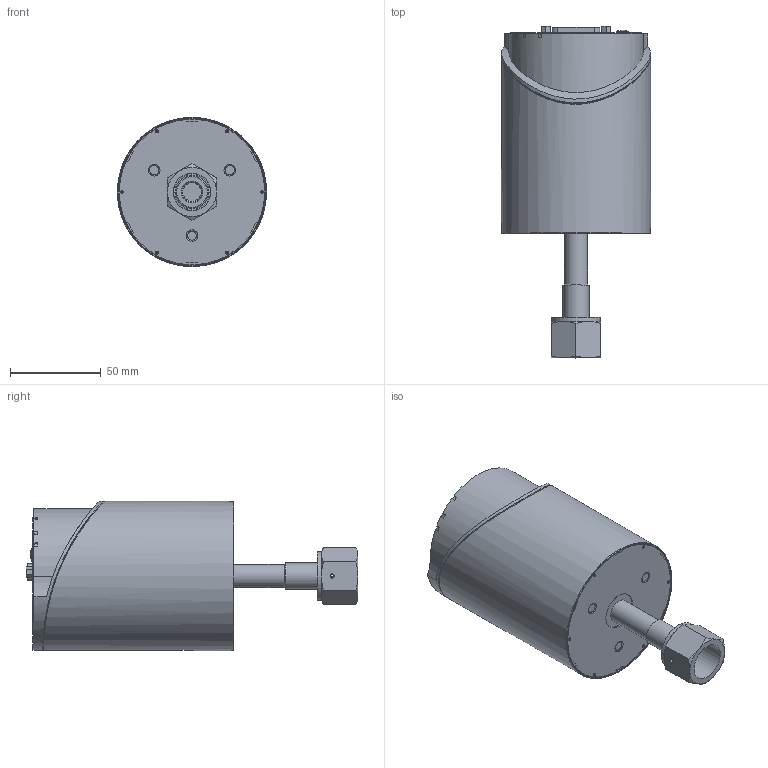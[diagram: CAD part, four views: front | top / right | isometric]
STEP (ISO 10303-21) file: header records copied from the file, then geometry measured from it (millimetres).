
FILE_DESCRIPTION(/* description */ (''),/* implementation_level */ '2;1');
FILE_NAME(/* name */ 'M:\Lehrlinge\15_Yanik Lutz\MCDG045D_16KF mit anderen Flansch\MCDG045D_16KF mit 8 VCR female long.stp',/* time_stamp */ '2022-03-18T15:25:13+01:00',/* author */ ('yani001'),/* organization */ (''),/* preprocessor_version */ 'ST-DEVELOPER v18.1',/* originating_system */ 'Autodesk Inventor 2021',/* authorisation */ '');
FILE_SCHEMA (('AUTOMOTIVE_DESIGN { 1 0 10303 214 3 1 1 }'));
Length unit declared in the file: millimetre
Products named in the file (1): Bauteil21
Bounding box: 82 x 182.57 x 82 mm (x, y, z)
Volume: 579741.7 mm3; surface area: 51703.3 mm2
Topology: 1 solids, 6 shells, 505 faces, 1278 edges, 804 vertices
Faces by surface type: plane 232, cylinder 172, bspline 33, sphere 27, cone 24, torus 17
Full cylindrical faces by diameter (mm): 1 x15, 1.5 x2, 2.156 x2, 2.286 x2, 2.5 x1, 2.845 x2, 3.2 x2, 4.5 x1, 7 x1, 10.16 x1, 12.7 x1, 14.46 x1, 15.494 x1, 18.796 x1, 20.32 x1, 20.574 x1, 26.988 x1, 82 x2
Entity records: 18822 total; most frequent: CARTESIAN_POINT 5961, DIRECTION 2591, ORIENTED_EDGE 2520, EDGE_CURVE 1260, AXIS2_PLACEMENT_3D 952, VERTEX_POINT 804, LINE 687, VECTOR 687
